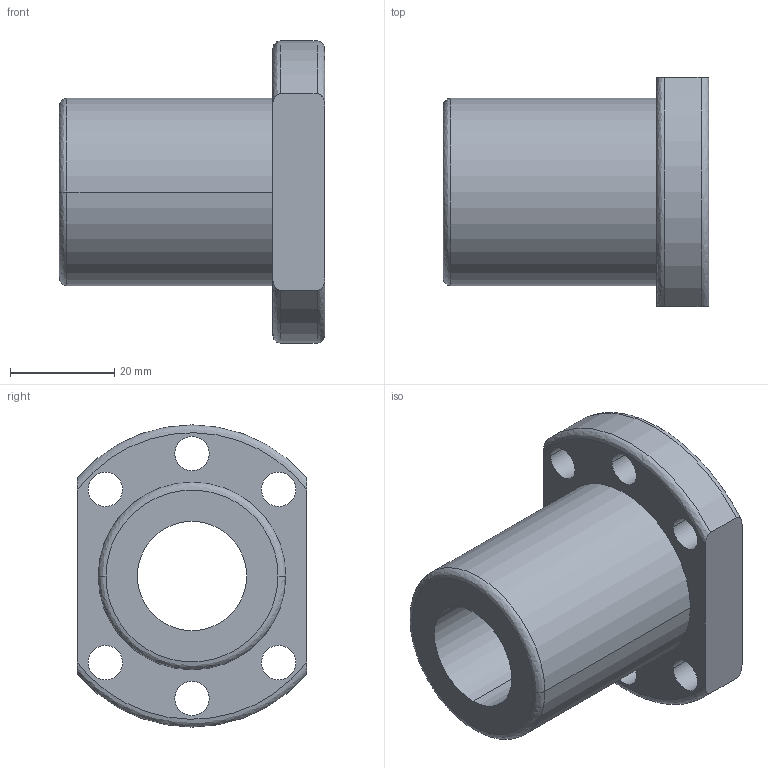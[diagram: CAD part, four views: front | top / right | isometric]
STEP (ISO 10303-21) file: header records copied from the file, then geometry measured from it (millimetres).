
FILE_DESCRIPTION (( 'STEP AP214' ), '1' );
FILE_NAME ('2.3014 Kuularuuvimutteri SFU2005-4.STEP', '2024-05-02T10:18:19', ( '' ), ( '' ), 'SwSTEP 2.0', 'SolidWorks 2024', '' );
FILE_SCHEMA (( 'AUTOMOTIVE_DESIGN' ));
Length unit declared in the file: millimetre
Products named in the file (1): 2.3014 Kuularuuvimutteri SFU2005-4
Bounding box: 51 x 44 x 58 mm (x, y, z)
Volume: 44662.9 mm3; surface area: 15434.6 mm2
Topology: 2 solids, 2 shells, 38 faces, 94 edges, 62 vertices
Faces by surface type: cylinder 24, plane 8, bspline 6
Entity records: 1784 total; most frequent: CARTESIAN_POINT 753, DIRECTION 196, ORIENTED_EDGE 188, EDGE_CURVE 94, AXIS2_PLACEMENT_3D 83, VERTEX_POINT 62, EDGE_LOOP 56, CIRCLE 50
